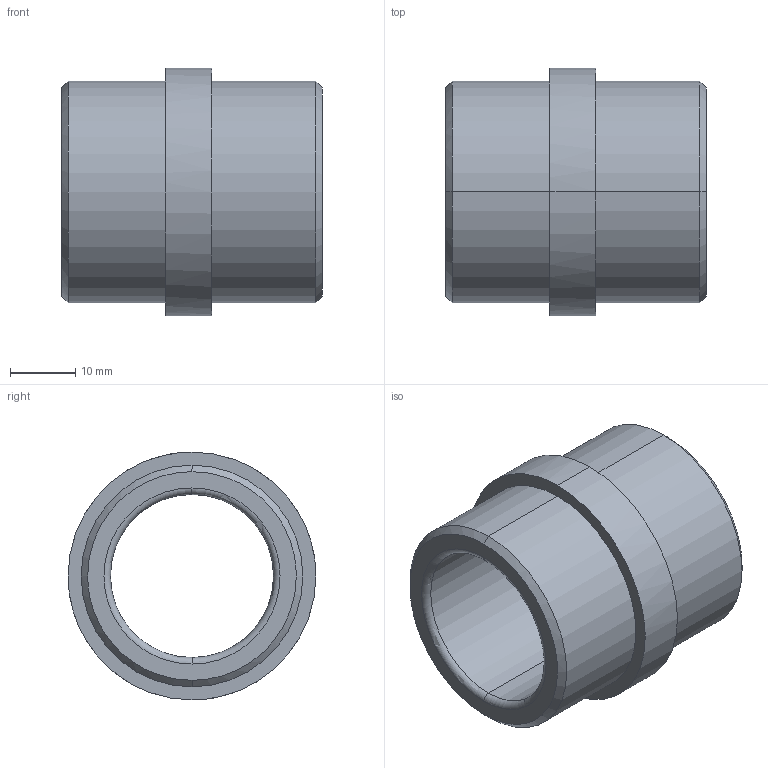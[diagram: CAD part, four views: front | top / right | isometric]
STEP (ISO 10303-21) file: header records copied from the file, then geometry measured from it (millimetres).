
FILE_DESCRIPTION(('CATIA V5 STEP Exchange'),'2;1');
FILE_NAME('C:\Users\Utente\Desktop\IO LAVORO\3D X SITO CF\X SITO\PLASTICA\355\355-25X40.stp','2021-04-21T08:54:41+00:00',('none'),('none'),'CATIA Version 5 Release 20 GA (IN-10)','CATIA V5 STEP AP203','none');
FILE_SCHEMA(('CONFIG_CONTROL_DESIGN'));
Length unit declared in the file: millimetre
Products named in the file (1): 355-25X40
Bounding box: 40 x 38 x 38 mm (x, y, z)
Volume: 18126.2 mm3; surface area: 8594.3 mm2
Topology: 1 solids, 1 shells, 20 faces, 64 edges, 48 vertices
Faces by surface type: cylinder 8, plane 4, cone 4, torus 4
Entity records: 906 total; most frequent: CARTESIAN_POINT 301, ORIENTED_EDGE 128, DIRECTION 92, EDGE_CURVE 64, AXIS2_PLACEMENT_3D 61, VERTEX_POINT 48, CIRCLE 40, EDGE_LOOP 24
